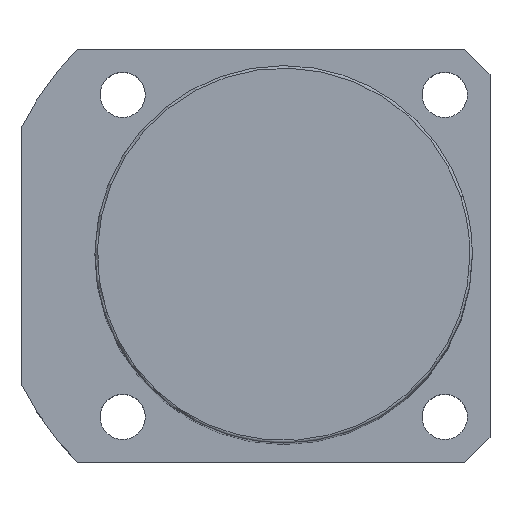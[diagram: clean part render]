
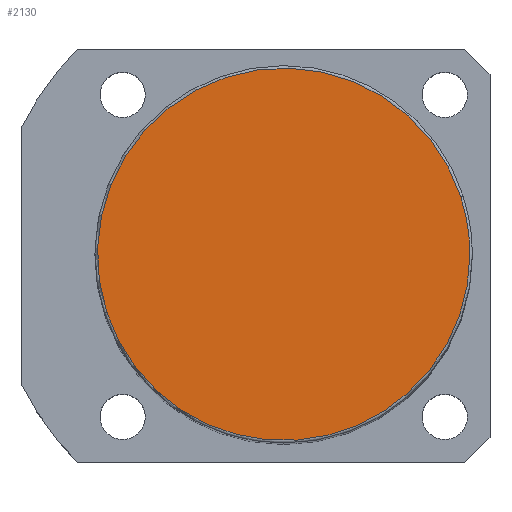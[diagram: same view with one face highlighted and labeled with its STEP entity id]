
A CAD part, top view. The second image highlights one B-rep face of the part: STEP entity #2130.
In plain terms, the highlighted planar face has unit normal (0, 0, 1).
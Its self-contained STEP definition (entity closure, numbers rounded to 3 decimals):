
#2096=CARTESIAN_POINT('',(37.0,0.0,188.0));
#2097=VERTEX_POINT('',#2096);
#2098=CARTESIAN_POINT('',(35.189,11.434,188.0));
#2099=VERTEX_POINT('',#2098);
#2100=CARTESIAN_POINT('',(0.0,0.0,188.0));
#2101=DIRECTION('',(0.0,0.0,1.0));
#2102=DIRECTION('',(1.0,0.0,0.0));
#2103=AXIS2_PLACEMENT_3D('',#2100,#2101,#2102);
#2104=CIRCLE('',#2103,37.0);
#2105=EDGE_CURVE('no 1978',#2097,#2099,#2104,.T.);
#2106=ORIENTED_EDGE('',*,*,#2105,.T.);
#2107=CARTESIAN_POINT('',(-35.189,-11.434,188.0));
#2108=VERTEX_POINT('',#2107);
#2109=CARTESIAN_POINT('',(0.0,0.0,188.0));
#2110=DIRECTION('',(0.0,0.0,1.0));
#2111=DIRECTION('',(1.0,0.0,0.0));
#2112=AXIS2_PLACEMENT_3D('',#2109,#2110,#2111);
#2113=CIRCLE('',#2112,37.0);
#2114=EDGE_CURVE('no 1984',#2099,#2108,#2113,.T.);
#2115=ORIENTED_EDGE('',*,*,#2114,.T.);
#2116=CARTESIAN_POINT('',(0.0,0.0,188.0));
#2117=DIRECTION('',(0.0,0.0,1.0));
#2118=DIRECTION('',(1.0,0.0,0.0));
#2119=AXIS2_PLACEMENT_3D('',#2116,#2117,#2118);
#2120=CIRCLE('',#2119,37.0);
#2121=EDGE_CURVE('no 1988',#2108,#2097,#2120,.T.);
#2122=ORIENTED_EDGE('',*,*,#2121,.T.);
#2123=EDGE_LOOP('',(#2106,#2115,#2122));
#2124=FACE_OUTER_BOUND('',#2123,.T.);
#2125=CARTESIAN_POINT('',(0.0,0.0,188.0));
#2126=DIRECTION('',(0.0,0.0,1.0));
#2127=DIRECTION('',(1.0,0.0,0.0));
#2128=AXIS2_PLACEMENT_3D('',#2125,#2126,#2127);
#2129=PLANE('',#2128);
#2130=ADVANCED_FACE('no 1969',(#2124),#2129,.T.);
